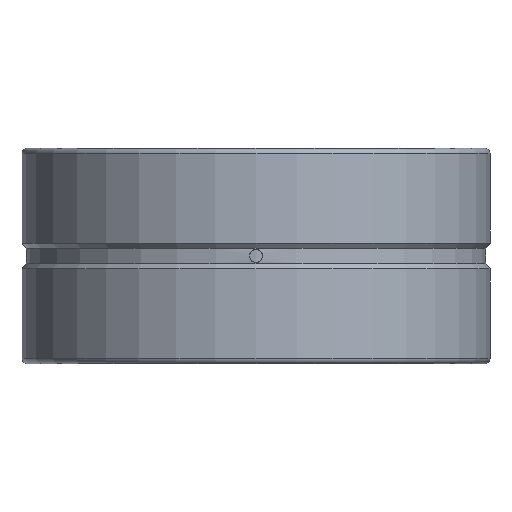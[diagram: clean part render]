
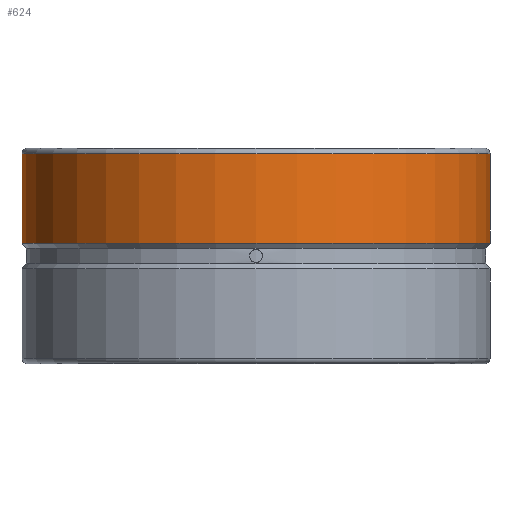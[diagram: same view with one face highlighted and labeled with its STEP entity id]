
A CAD part, front view. The second image highlights one B-rep face of the part: STEP entity #624.
In plain terms, the highlighted cylindrical face has radius 50 mm (diameter 100 mm), a full revolution.
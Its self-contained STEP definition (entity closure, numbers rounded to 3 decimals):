
#161=CIRCLE('',#678,50.);
#162=CIRCLE('',#680,50.);
#214=FACE_BOUND('',#315,.T.);
#263=FACE_OUTER_BOUND('',#314,.T.);
#314=EDGE_LOOP('',(#512));
#315=EDGE_LOOP('',(#513));
#415=VERTEX_POINT('',#1255);
#416=VERTEX_POINT('',#1258);
#463=EDGE_CURVE('',#415,#415,#161,.T.);
#464=EDGE_CURVE('',#416,#416,#162,.T.);
#512=ORIENTED_EDGE('',*,*,#464,.T.);
#513=ORIENTED_EDGE('',*,*,#463,.F.);
#603=CYLINDRICAL_SURFACE('',#679,50.);
#624=ADVANCED_FACE('',(#263,#214),#603,.T.);
#678=AXIS2_PLACEMENT_3D('',#1256,#806,#807);
#679=AXIS2_PLACEMENT_3D('',#1257,#808,#809);
#680=AXIS2_PLACEMENT_3D('',#1259,#810,#811);
#806=DIRECTION('center_axis',(0.,0.,1.));
#807=DIRECTION('ref_axis',(0.,-1.,0.));
#808=DIRECTION('center_axis',(0.,0.,-1.));
#809=DIRECTION('ref_axis',(0.,1.,0.));
#810=DIRECTION('center_axis',(0.,0.,1.));
#811=DIRECTION('ref_axis',(0.,1.,0.));
#1255=CARTESIAN_POINT('',(0.,50.,35.417));
#1256=CARTESIAN_POINT('Origin',(0.,0.,35.417));
#1257=CARTESIAN_POINT('Origin',(0.,0.,13.517));
#1258=CARTESIAN_POINT('',(0.,50.,16.277));
#1259=CARTESIAN_POINT('Origin',(0.,0.,16.277));
